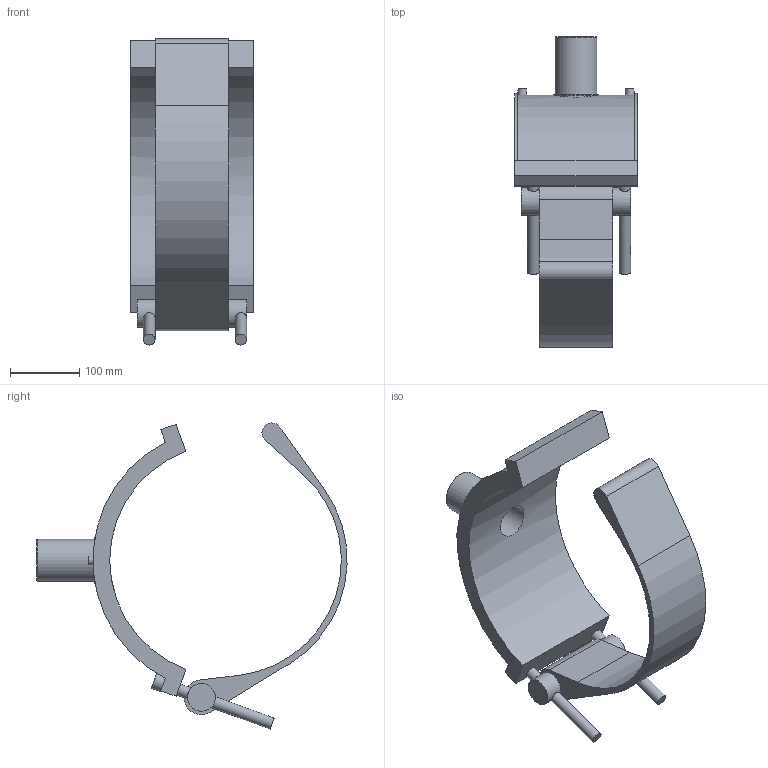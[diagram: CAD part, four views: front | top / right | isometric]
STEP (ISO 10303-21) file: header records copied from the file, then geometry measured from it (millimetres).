
FILE_DESCRIPTION(/* description */ ('PLASSON BRANCH SADDLE 12''''DIPS x 2''''IPS'),/* implementation_level */ '2;1');
FILE_NAME(/* name */ 'C:\Dropbox\KIMPROJECTS-Inventor 2019\99-16-3568-Processing Inch\ASTM ElectroFusion 2021\5958D (2)\5958DB03120020.ipt.stp',/* time_stamp */ '2021-08-30T09:54:37+03:00',/* author */ ('KIM'),/* organization */ (''),/* preprocessor_version */ 'ST-DEVELOPER v17.2',/* originating_system */ 'Autodesk Inventor 2019',/* authorisation */ '');
FILE_SCHEMA (('AUTOMOTIVE_DESIGN { 1 0 10303 214 3 1 1 }'));
Length unit declared in the file: inch
Products named in the file (1): 5958DB03120020
Bounding box: 176.02 x 446.93 x 441.01 mm (x, y, z)
Volume: 2884107.7 mm3; surface area: 392373.1 mm2
Topology: 1 solids, 1 shells, 59 faces, 137 edges, 94 vertices
Faces by surface type: plane 32, cylinder 23, cone 3, torus 1
Full cylindrical faces by diameter (mm): 4 x2, 10 x2, 16.69 x4, 23.366 x2, 40.056 x2, 48.08 x1, 60.1 x1, 66.11 x1
Entity records: 2065 total; most frequent: CARTESIAN_POINT 627, DIRECTION 296, ORIENTED_EDGE 274, EDGE_CURVE 137, AXIS2_PLACEMENT_3D 115, VERTEX_POINT 94, EDGE_LOOP 77, LINE 66
